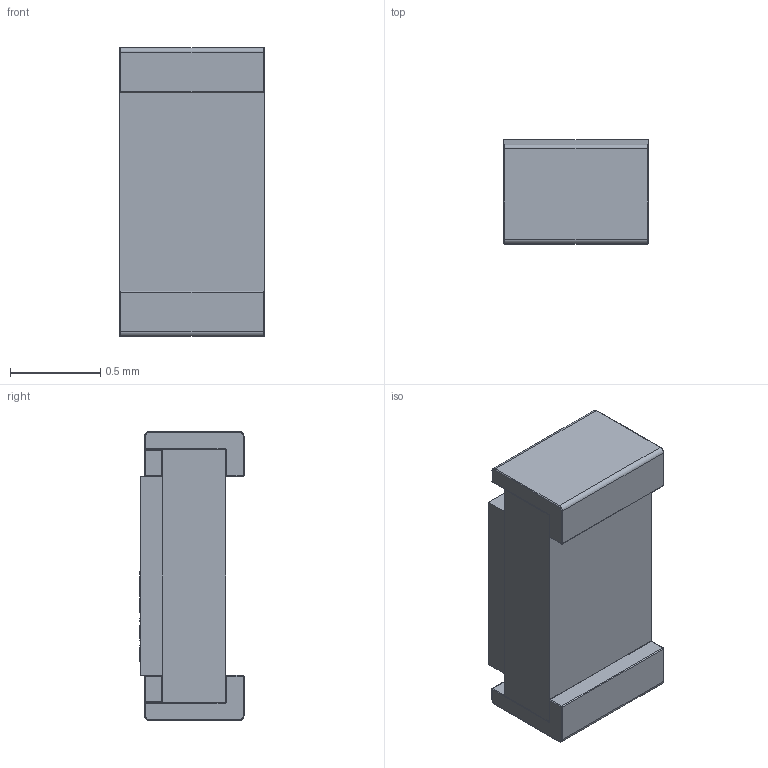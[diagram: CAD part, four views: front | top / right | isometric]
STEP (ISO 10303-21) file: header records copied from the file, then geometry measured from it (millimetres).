
FILE_DESCRIPTION (( 'STEP AP214' ), '1' );
FILE_NAME ('RT0603BRD07104KL.STEP', '2019-06-04T13:19:47', ( '' ), ( '' ), 'SwSTEP 2.0', 'SolidWorks 2016', '' );
FILE_SCHEMA (( 'AUTOMOTIVE_DESIGN' ));
Length unit declared in the file: millimetre
Products named in the file (5): RT0603BRD07104KL_Coating; RT0603BRD07104KL_Terminal; RT0603BRD07104KL_Ceramic; RT0603BRD07104KL; RT0603BRD07104KL_Logo
Assembly tree (5 placements, depth 2):
  RT0603BRD07104KL
    RT0603BRD07104KL_Ceramic
    RT0603BRD07104KL_Terminal  x2
    RT0603BRD07104KL_Coating
    RT0603BRD07104KL_Logo
Bounding box: 0.8 x 0.58 x 1.6 mm (x, y, z)
Volume: 0.6 mm3; surface area: 9.2 mm2
Topology: 14 solids, 14 shells, 258 faces, 610 edges, 360 vertices
Faces by surface type: plane 136, cylinder 60, bspline 22, sphere 20, torus 20
Entity records: 6883 total; most frequent: CARTESIAN_POINT 2212, ORIENTED_EDGE 920, DIRECTION 850, EDGE_CURVE 460, VECTOR 346, LINE 346, VERTEX_POINT 290, AXIS2_PLACEMENT_3D 252
